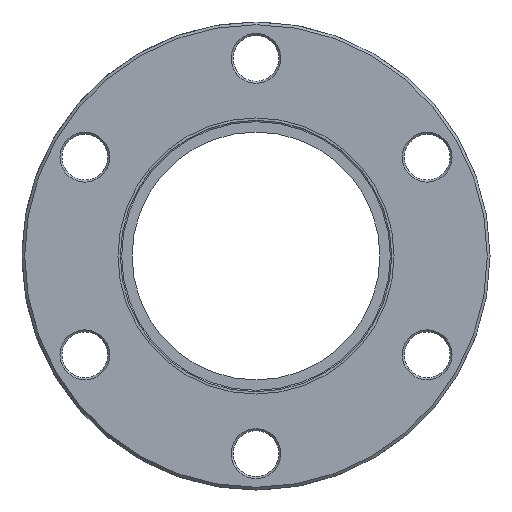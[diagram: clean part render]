
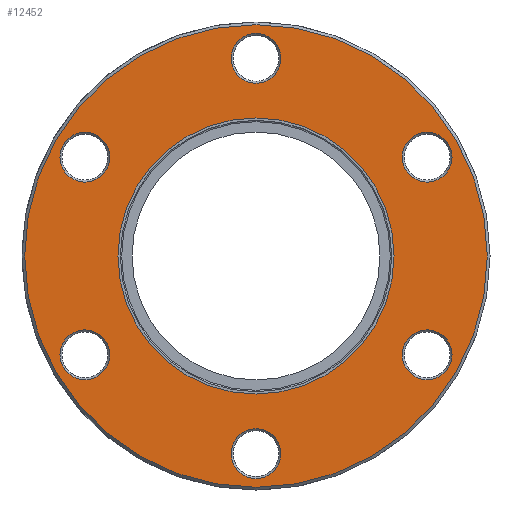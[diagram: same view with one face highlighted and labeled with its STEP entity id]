
A CAD part, left-side view. The second image highlights one B-rep face of the part: STEP entity #12452.
In plain terms, the highlighted planar face has unit normal (-1, 0, 0).
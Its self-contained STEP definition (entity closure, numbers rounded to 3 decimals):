
#12324=CARTESIAN_POINT('',(-13.,34.35,0.));
#12325=VERTEX_POINT('',#12324);
#12326=CARTESIAN_POINT('',(-13.,0.,0.0));
#12327=DIRECTION('',(1.0,0.0,0.0));
#12328=DIRECTION('',(0.0,-1.0,0.0));
#12329=AXIS2_PLACEMENT_3D('',#12326,#12327,#12328);
#12330=CIRCLE('',#12329,34.35);
#12331=EDGE_CURVE('',#12325,#12325,#12330,.T.);
#12367=CARTESIAN_POINT('',(-13.,27.625,0.0));
#12368=DIRECTION('',(-1.0,0.0,0.0));
#12369=DIRECTION('',(0.0,0.0,1.0));
#12370=AXIS2_PLACEMENT_3D('',#12367,#12368,#12369);
#12371=PLANE('',#12370);
#12372=ORIENTED_EDGE('',*,*,#12331,.F.);
#12373=EDGE_LOOP('',(#12372));
#12374=FACE_OUTER_BOUND('',#12373,.T.);
#12375=CARTESIAN_POINT('',(-13.,3.204,-27.5));
#12376=VERTEX_POINT('',#12375);
#12377=CARTESIAN_POINT('',(-13.,0.,-29.35));
#12378=DIRECTION('',(-1.0,0.,0.));
#12379=DIRECTION('',(0.,-0.866,-0.5));
#12380=AXIS2_PLACEMENT_3D('',#12377,#12378,#12379);
#12381=CIRCLE('',#12380,3.7);
#12382=EDGE_CURVE('',#12376,#12376,#12381,.T.);
#12383=ORIENTED_EDGE('',*,*,#12382,.F.);
#12384=EDGE_LOOP('',(#12383));
#12385=FACE_BOUND('',#12384,.T.);
#12386=CARTESIAN_POINT('',(-13.,-25.418,10.975));
#12387=VERTEX_POINT('',#12386);
#12388=CARTESIAN_POINT('',(-13.,-25.418,14.675));
#12389=DIRECTION('',(-1.0,0.0,0.0));
#12390=DIRECTION('',(0.0,0.0,1.0));
#12391=AXIS2_PLACEMENT_3D('',#12388,#12389,#12390);
#12392=CIRCLE('',#12391,3.7);
#12393=EDGE_CURVE('',#12387,#12387,#12392,.T.);
#12394=ORIENTED_EDGE('',*,*,#12393,.F.);
#12395=EDGE_LOOP('',(#12394));
#12396=FACE_BOUND('',#12395,.T.);
#12397=CARTESIAN_POINT('',(-13.,22.214,16.525));
#12398=VERTEX_POINT('',#12397);
#12399=CARTESIAN_POINT('',(-13.,25.418,14.675));
#12400=DIRECTION('',(-1.,0.,0.));
#12401=DIRECTION('',(0.,0.866,-0.5));
#12402=AXIS2_PLACEMENT_3D('',#12399,#12400,#12401);
#12403=CIRCLE('',#12402,3.7);
#12404=EDGE_CURVE('',#12398,#12398,#12403,.T.);
#12405=ORIENTED_EDGE('',*,*,#12404,.F.);
#12406=EDGE_LOOP('',(#12405));
#12407=FACE_BOUND('',#12406,.T.);
#12408=CARTESIAN_POINT('',(-13.,20.5,0.0));
#12409=VERTEX_POINT('',#12408);
#12410=CARTESIAN_POINT('',(-13.,0.,0.0));
#12411=DIRECTION('',(1.0,0.0,0.0));
#12412=DIRECTION('',(0.0,1.0,0.0));
#12413=AXIS2_PLACEMENT_3D('',#12410,#12411,#12412);
#12414=CIRCLE('',#12413,20.5);
#12415=EDGE_CURVE('',#12409,#12409,#12414,.T.);
#12416=ORIENTED_EDGE('',*,*,#12415,.T.);
#12417=EDGE_LOOP('',(#12416));
#12418=FACE_BOUND('',#12417,.T.);
#12419=CARTESIAN_POINT('',(-13.,25.418,-10.975));
#12420=VERTEX_POINT('',#12419);
#12421=CARTESIAN_POINT('',(-13.,25.418,-14.675));
#12422=DIRECTION('',(-1.0,0.0,0.0));
#12423=DIRECTION('',(0.0,0.0,-1.0));
#12424=AXIS2_PLACEMENT_3D('',#12421,#12422,#12423);
#12425=CIRCLE('',#12424,3.7);
#12426=EDGE_CURVE('',#12420,#12420,#12425,.T.);
#12427=ORIENTED_EDGE('',*,*,#12426,.F.);
#12428=EDGE_LOOP('',(#12427));
#12429=FACE_BOUND('',#12428,.T.);
#12430=CARTESIAN_POINT('',(-13.,-3.204,27.5));
#12431=VERTEX_POINT('',#12430);
#12432=CARTESIAN_POINT('',(-13.,0.,29.35));
#12433=DIRECTION('',(-1.0,0.,0.));
#12434=DIRECTION('',(0.,0.866,0.5));
#12435=AXIS2_PLACEMENT_3D('',#12432,#12433,#12434);
#12436=CIRCLE('',#12435,3.7);
#12437=EDGE_CURVE('',#12431,#12431,#12436,.T.);
#12438=ORIENTED_EDGE('',*,*,#12437,.F.);
#12439=EDGE_LOOP('',(#12438));
#12440=FACE_BOUND('',#12439,.T.);
#12441=CARTESIAN_POINT('',(-13.,-22.214,-16.525));
#12442=VERTEX_POINT('',#12441);
#12443=CARTESIAN_POINT('',(-13.,-25.418,-14.675));
#12444=DIRECTION('',(-1.0,0.,0.));
#12445=DIRECTION('',(0.,-0.866,0.5));
#12446=AXIS2_PLACEMENT_3D('',#12443,#12444,#12445);
#12447=CIRCLE('',#12446,3.7);
#12448=EDGE_CURVE('',#12442,#12442,#12447,.T.);
#12449=ORIENTED_EDGE('',*,*,#12448,.F.);
#12450=EDGE_LOOP('',(#12449));
#12451=FACE_BOUND('',#12450,.T.);
#12452=ADVANCED_FACE('',(#12374,#12385,#12396,#12407,#12418,#12429,#12440,#12451),#12371,.T.);
